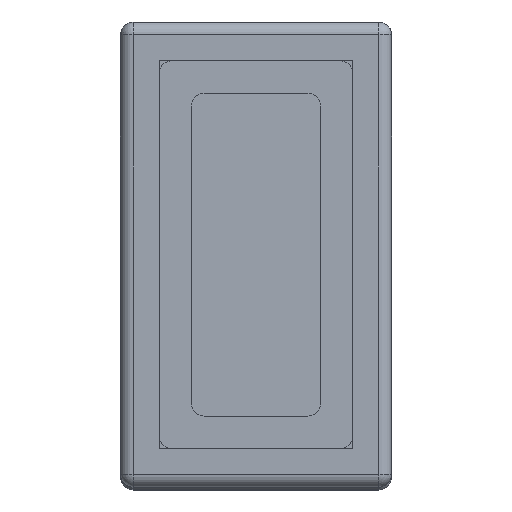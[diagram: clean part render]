
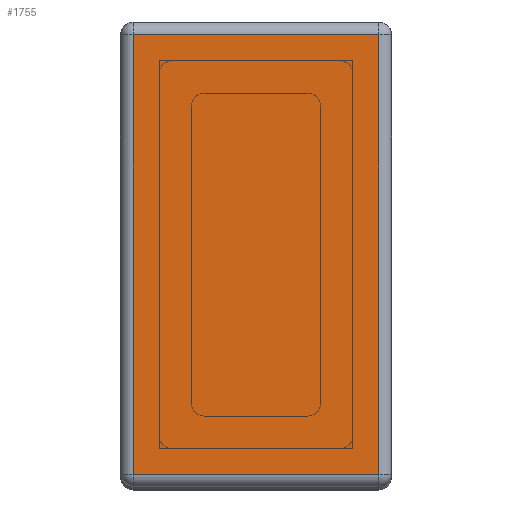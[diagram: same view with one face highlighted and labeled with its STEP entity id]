
A CAD part, top view. The second image highlights one B-rep face of the part: STEP entity #1755.
In plain terms, the highlighted planar face has unit normal (0, 0, 1).
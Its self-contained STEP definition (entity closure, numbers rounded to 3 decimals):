
#147=PLANE('',#1934);
#216=FACE_OUTER_BOUND('',#332,.T.);
#332=EDGE_LOOP('',(#1262,#1263,#1264,#1265));
#478=LINE('',#2862,#612);
#482=LINE('',#2878,#616);
#485=LINE('',#2883,#619);
#486=LINE('',#2885,#620);
#612=VECTOR('',#2253,10.);
#616=VECTOR('',#2275,10.);
#619=VECTOR('',#2282,10.);
#620=VECTOR('',#2285,10.);
#756=VERTEX_POINT('',#2851);
#757=VERTEX_POINT('',#2855);
#760=VERTEX_POINT('',#2868);
#761=VERTEX_POINT('',#2872);
#926=EDGE_CURVE('',#757,#756,#478,.T.);
#935=EDGE_CURVE('',#761,#757,#482,.T.);
#938=EDGE_CURVE('',#760,#761,#485,.T.);
#939=EDGE_CURVE('',#756,#760,#486,.T.);
#1262=ORIENTED_EDGE('',*,*,#926,.F.);
#1263=ORIENTED_EDGE('',*,*,#935,.F.);
#1264=ORIENTED_EDGE('',*,*,#938,.F.);
#1265=ORIENTED_EDGE('',*,*,#939,.F.);
#1755=ADVANCED_FACE('',(#216),#147,.F.);
#1934=AXIS2_PLACEMENT_3D('',#2888,#2290,#2291);
#2253=DIRECTION('',(1.,0.,0.));
#2275=DIRECTION('',(0.,1.,0.));
#2282=DIRECTION('',(-1.,0.,0.));
#2285=DIRECTION('',(0.,-1.,0.));
#2290=DIRECTION('center_axis',(0.,0.,
-1.));
#2291=DIRECTION('ref_axis',(-1.,0.,0.));
#2851=CARTESIAN_POINT('',(9.5,17.,602.));
#2855=CARTESIAN_POINT('',(-9.5,17.,602.));
#2862=CARTESIAN_POINT('',(5.25,17.,602.));
#2868=CARTESIAN_POINT('',(9.5,-17.,602.));
#2872=CARTESIAN_POINT('',(-9.5,-17.,602.));
#2878=CARTESIAN_POINT('',(-9.5,9.,602.));
#2883=CARTESIAN_POINT('',(-5.25,-17.,602.));
#2885=CARTESIAN_POINT('',(9.5,-9.,602.));
#2888=CARTESIAN_POINT('Origin',(0.,0.,
602.));
